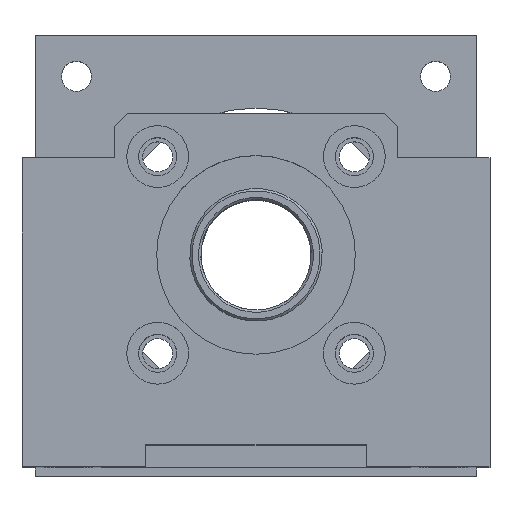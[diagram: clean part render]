
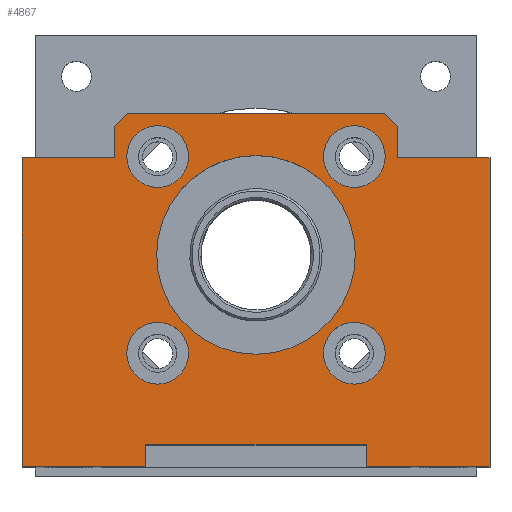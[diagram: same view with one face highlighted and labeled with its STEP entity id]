
A CAD part, top view. The second image highlights one B-rep face of the part: STEP entity #4867.
In plain terms, the highlighted planar face has unit normal (0, 0, 1).
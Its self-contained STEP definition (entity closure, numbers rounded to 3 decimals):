
#2011=DIRECTION('',(1.,0.,0.));
#2012=VECTOR('',#2011,28.);
#2013=CARTESIAN_POINT('',(-53.,-48.,257.));
#2014=LINE('',#2013,#2012);
#2074=DIRECTION('',(1.,0.,0.));
#2075=VECTOR('',#2074,28.);
#2076=CARTESIAN_POINT('',(25.,-48.,257.));
#2077=LINE('',#2076,#2075);
#2263=DIRECTION('',(-1.,0.,0.));
#2264=VECTOR('',#2263,21.);
#2265=CARTESIAN_POINT('',(-32.,22.,257.));
#2266=LINE('',#2265,#2264);
#2554=DIRECTION('',(-1.,0.,0.));
#2555=VECTOR('',#2554,21.);
#2556=CARTESIAN_POINT('',(53.,22.,257.));
#2557=LINE('',#2556,#2555);
#2666=DIRECTION('',(0.,1.,0.));
#2667=VECTOR('',#2666,7.);
#2668=CARTESIAN_POINT('',(32.,22.,257.));
#2669=LINE('',#2668,#2667);
#2678=DIRECTION('',(0.707,0.707,0.));
#2679=VECTOR('',#2678,4.243);
#2680=CARTESIAN_POINT('',(-32.,29.,257.));
#2681=LINE('',#2680,#2679);
#2682=DIRECTION('',(0.707,-0.707,0.));
#2683=VECTOR('',#2682,4.243);
#2684=CARTESIAN_POINT('',(29.,32.,257.));
#2685=LINE('',#2684,#2683);
#2686=CARTESIAN_POINT('',(22.274,-22.274,257.));
#2687=DIRECTION('',(0.,0.,1.));
#2688=DIRECTION('',(1.,0.,0.));
#2689=AXIS2_PLACEMENT_3D('',#2686,#2687,#2688);
#2691=CARTESIAN_POINT('',(22.274,-22.274,257.));
#2692=DIRECTION('',(0.,0.,1.));
#2693=DIRECTION('',(-1.,0.,0.));
#2694=AXIS2_PLACEMENT_3D('',#2691,#2692,#2693);
#2696=CARTESIAN_POINT('',(-22.274,22.274,257.));
#2697=DIRECTION('',(0.,0.,1.));
#2698=DIRECTION('',(1.,0.,0.));
#2699=AXIS2_PLACEMENT_3D('',#2696,#2697,#2698);
#2701=CARTESIAN_POINT('',(-22.274,22.274,257.));
#2702=DIRECTION('',(0.,0.,1.));
#2703=DIRECTION('',(-1.,0.,0.));
#2704=AXIS2_PLACEMENT_3D('',#2701,#2702,#2703);
#2706=CARTESIAN_POINT('',(-22.274,-22.274,257.));
#2707=DIRECTION('',(0.,0.,1.));
#2708=DIRECTION('',(1.,0.,0.));
#2709=AXIS2_PLACEMENT_3D('',#2706,#2707,#2708);
#2711=CARTESIAN_POINT('',(-22.274,-22.274,257.));
#2712=DIRECTION('',(0.,0.,1.));
#2713=DIRECTION('',(-1.,0.,0.));
#2714=AXIS2_PLACEMENT_3D('',#2711,#2712,#2713);
#2716=CARTESIAN_POINT('',(0.,0.,257.));
#2717=DIRECTION('',(0.,0.,1.));
#2718=DIRECTION('',(1.,0.,0.));
#2719=AXIS2_PLACEMENT_3D('',#2716,#2717,#2718);
#2721=CARTESIAN_POINT('',(0.,0.,257.));
#2722=DIRECTION('',(0.,0.,1.));
#2723=DIRECTION('',(-1.,0.,0.));
#2724=AXIS2_PLACEMENT_3D('',#2721,#2722,#2723);
#2726=CARTESIAN_POINT('',(22.274,22.274,257.));
#2727=DIRECTION('',(0.,0.,1.));
#2728=DIRECTION('',(1.,0.,0.));
#2729=AXIS2_PLACEMENT_3D('',#2726,#2727,#2728);
#2731=CARTESIAN_POINT('',(22.274,22.274,257.));
#2732=DIRECTION('',(0.,0.,1.));
#2733=DIRECTION('',(-1.,0.,0.));
#2734=AXIS2_PLACEMENT_3D('',#2731,#2732,#2733);
#2736=DIRECTION('',(0.,-1.,0.));
#2737=VECTOR('',#2736,5.);
#2738=CARTESIAN_POINT('',(25.,-43.,257.));
#2739=LINE('',#2738,#2737);
#2752=DIRECTION('',(1.,0.,0.));
#2753=VECTOR('',#2752,50.);
#2754=CARTESIAN_POINT('',(-25.,-43.,257.));
#2755=LINE('',#2754,#2753);
#2768=DIRECTION('',(0.,1.,0.));
#2769=VECTOR('',#2768,5.);
#2770=CARTESIAN_POINT('',(-25.,-48.,257.));
#2771=LINE('',#2770,#2769);
#2784=DIRECTION('',(0.,-1.,0.));
#2785=VECTOR('',#2784,35.);
#2786=CARTESIAN_POINT('',(-53.,22.,257.));
#2787=LINE('',#2786,#2785);
#2788=DIRECTION('',(0.,-1.,0.));
#2789=VECTOR('',#2788,35.);
#2790=CARTESIAN_POINT('',(-53.,-13.,257.));
#2791=LINE('',#2790,#2789);
#2820=DIRECTION('',(0.,-1.,0.));
#2821=VECTOR('',#2820,7.);
#2822=CARTESIAN_POINT('',(-32.,29.,257.));
#2823=LINE('',#2822,#2821);
#2840=DIRECTION('',(-1.,0.,0.));
#2841=VECTOR('',#2840,58.);
#2842=CARTESIAN_POINT('',(29.,32.,257.));
#2843=LINE('',#2842,#2841);
#3154=DIRECTION('',(0.,1.,0.));
#3155=VECTOR('',#3154,35.);
#3156=CARTESIAN_POINT('',(53.,-48.,257.));
#3157=LINE('',#3156,#3155);
#3158=DIRECTION('',(0.,1.,0.));
#3159=VECTOR('',#3158,35.);
#3160=CARTESIAN_POINT('',(53.,-13.,257.));
#3161=LINE('',#3160,#3159);
#3639=CARTESIAN_POINT('',(-53.,-48.,257.));
#3640=VERTEX_POINT('',#3639);
#3641=CARTESIAN_POINT('',(-25.,-48.,257.));
#3642=VERTEX_POINT('',#3641);
#3677=CARTESIAN_POINT('',(25.,-48.,257.));
#3678=VERTEX_POINT('',#3677);
#3679=CARTESIAN_POINT('',(53.,-48.,257.));
#3680=VERTEX_POINT('',#3679);
#3775=CARTESIAN_POINT('',(-32.,22.,257.));
#3776=VERTEX_POINT('',#3775);
#3777=CARTESIAN_POINT('',(-53.,22.,257.));
#3778=VERTEX_POINT('',#3777);
#3885=CARTESIAN_POINT('',(53.,22.,257.));
#3886=VERTEX_POINT('',#3885);
#3887=CARTESIAN_POINT('',(32.,22.,257.));
#3888=VERTEX_POINT('',#3887);
#3929=CARTESIAN_POINT('',(32.,29.,257.));
#3930=VERTEX_POINT('',#3929);
#3933=CARTESIAN_POINT('',(25.,-43.,257.));
#3934=VERTEX_POINT('',#3933);
#3935=CARTESIAN_POINT('',(-25.,-43.,257.));
#3936=VERTEX_POINT('',#3935);
#3937=CARTESIAN_POINT('',(-53.,-13.,257.));
#3938=VERTEX_POINT('',#3937);
#3939=CARTESIAN_POINT('',(-32.,29.,257.));
#3940=VERTEX_POINT('',#3939);
#3941=CARTESIAN_POINT('',(-29.,32.,257.));
#3942=VERTEX_POINT('',#3941);
#3943=CARTESIAN_POINT('',(29.,32.,257.));
#3944=VERTEX_POINT('',#3943);
#3945=CARTESIAN_POINT('',(53.,-13.,257.));
#3946=VERTEX_POINT('',#3945);
#3947=CARTESIAN_POINT('',(29.274,-22.274,257.));
#3948=CARTESIAN_POINT('',(15.274,-22.274,257.));
#3949=VERTEX_POINT('',#3947);
#3950=VERTEX_POINT('',#3948);
#3951=CARTESIAN_POINT('',(-15.274,22.274,257.));
#3952=CARTESIAN_POINT('',(-29.274,22.274,257.));
#3953=VERTEX_POINT('',#3951);
#3954=VERTEX_POINT('',#3952);
#3955=CARTESIAN_POINT('',(-15.274,-22.274,257.));
#3956=CARTESIAN_POINT('',(-29.274,-22.274,257.));
#3957=VERTEX_POINT('',#3955);
#3958=VERTEX_POINT('',#3956);
#3959=CARTESIAN_POINT('',(22.5,0.,257.));
#3960=CARTESIAN_POINT('',(-22.5,0.,257.));
#3961=VERTEX_POINT('',#3959);
#3962=VERTEX_POINT('',#3960);
#3963=CARTESIAN_POINT('',(29.274,22.274,257.));
#3964=CARTESIAN_POINT('',(15.274,22.274,257.));
#3965=VERTEX_POINT('',#3963);
#3966=VERTEX_POINT('',#3964);
#4803=CARTESIAN_POINT('',(0.,0.,257.));
#4804=DIRECTION('',(0.,0.,-1.));
#4805=DIRECTION('',(1.,0.,0.));
#4806=AXIS2_PLACEMENT_3D('',#4803,#4804,#4805);
#4807=PLANE('',#4806);
#4808=ORIENTED_EDGE('',*,*,#4203,.F.);
#4810=ORIENTED_EDGE('',*,*,#4809,.F.);
#4812=ORIENTED_EDGE('',*,*,#4811,.F.);
#4814=ORIENTED_EDGE('',*,*,#4813,.F.);
#4815=ORIENTED_EDGE('',*,*,#4165,.F.);
#4817=ORIENTED_EDGE('',*,*,#4816,.F.);
#4819=ORIENTED_EDGE('',*,*,#4818,.F.);
#4820=ORIENTED_EDGE('',*,*,#4335,.F.);
#4822=ORIENTED_EDGE('',*,*,#4821,.F.);
#4824=ORIENTED_EDGE('',*,*,#4823,.T.);
#4826=ORIENTED_EDGE('',*,*,#4825,.F.);
#4828=ORIENTED_EDGE('',*,*,#4827,.T.);
#4829=ORIENTED_EDGE('',*,*,#4793,.F.);
#4830=ORIENTED_EDGE('',*,*,#4684,.F.);
#4832=ORIENTED_EDGE('',*,*,#4831,.F.);
#4834=ORIENTED_EDGE('',*,*,#4833,.F.);
#4835=EDGE_LOOP('',(#4808,#4810,#4812,#4814,#4815,#4817,#4819,#4820,#4822,#4824,
#4826,#4828,#4829,#4830,#4832,#4834));
#4836=FACE_OUTER_BOUND('',#4835,.F.);
#4838=ORIENTED_EDGE('',*,*,#4837,.T.);
#4840=ORIENTED_EDGE('',*,*,#4839,.T.);
#4841=EDGE_LOOP('',(#4838,#4840));
#4842=FACE_BOUND('',#4841,.F.);
#4844=ORIENTED_EDGE('',*,*,#4843,.T.);
#4846=ORIENTED_EDGE('',*,*,#4845,.T.);
#4847=EDGE_LOOP('',(#4844,#4846));
#4848=FACE_BOUND('',#4847,.F.);
#4850=ORIENTED_EDGE('',*,*,#4849,.T.);
#4852=ORIENTED_EDGE('',*,*,#4851,.T.);
#4853=EDGE_LOOP('',(#4850,#4852));
#4854=FACE_BOUND('',#4853,.F.);
#4856=ORIENTED_EDGE('',*,*,#4855,.T.);
#4858=ORIENTED_EDGE('',*,*,#4857,.T.);
#4859=EDGE_LOOP('',(#4856,#4858));
#4860=FACE_BOUND('',#4859,.F.);
#4862=ORIENTED_EDGE('',*,*,#4861,.T.);
#4864=ORIENTED_EDGE('',*,*,#4863,.T.);
#4865=EDGE_LOOP('',(#4862,#4864));
#4866=FACE_BOUND('',#4865,.F.);
#2690=CIRCLE('',#2689,7.);
#2695=CIRCLE('',#2694,7.);
#2700=CIRCLE('',#2699,7.);
#2705=CIRCLE('',#2704,7.);
#2710=CIRCLE('',#2709,7.);
#2715=CIRCLE('',#2714,7.);
#2720=CIRCLE('',#2719,22.5);
#2725=CIRCLE('',#2724,22.5);
#2730=CIRCLE('',#2729,7.);
#2735=CIRCLE('',#2734,7.);
#4165=EDGE_CURVE('',#3640,#3642,#2014,.T.);
#4203=EDGE_CURVE('',#3678,#3680,#2077,.T.);
#4335=EDGE_CURVE('',#3776,#3778,#2266,.T.);
#4684=EDGE_CURVE('',#3886,#3888,#2557,.T.);
#4793=EDGE_CURVE('',#3888,#3930,#2669,.T.);
#4809=EDGE_CURVE('',#3934,#3678,#2739,.T.);
#4811=EDGE_CURVE('',#3936,#3934,#2755,.T.);
#4813=EDGE_CURVE('',#3642,#3936,#2771,.T.);
#4816=EDGE_CURVE('',#3938,#3640,#2791,.T.);
#4818=EDGE_CURVE('',#3778,#3938,#2787,.T.);
#4821=EDGE_CURVE('',#3940,#3776,#2823,.T.);
#4823=EDGE_CURVE('',#3940,#3942,#2681,.T.);
#4825=EDGE_CURVE('',#3944,#3942,#2843,.T.);
#4827=EDGE_CURVE('',#3944,#3930,#2685,.T.);
#4831=EDGE_CURVE('',#3946,#3886,#3161,.T.);
#4833=EDGE_CURVE('',#3680,#3946,#3157,.T.);
#4837=EDGE_CURVE('',#3949,#3950,#2690,.T.);
#4839=EDGE_CURVE('',#3950,#3949,#2695,.T.);
#4843=EDGE_CURVE('',#3953,#3954,#2700,.T.);
#4845=EDGE_CURVE('',#3954,#3953,#2705,.T.);
#4849=EDGE_CURVE('',#3957,#3958,#2710,.T.);
#4851=EDGE_CURVE('',#3958,#3957,#2715,.T.);
#4855=EDGE_CURVE('',#3961,#3962,#2720,.T.);
#4857=EDGE_CURVE('',#3962,#3961,#2725,.T.);
#4861=EDGE_CURVE('',#3965,#3966,#2730,.T.);
#4863=EDGE_CURVE('',#3966,#3965,#2735,.T.);
#4867=ADVANCED_FACE('',(#4836,#4842,#4848,#4854,#4860,#4866),#4807,.F.);
